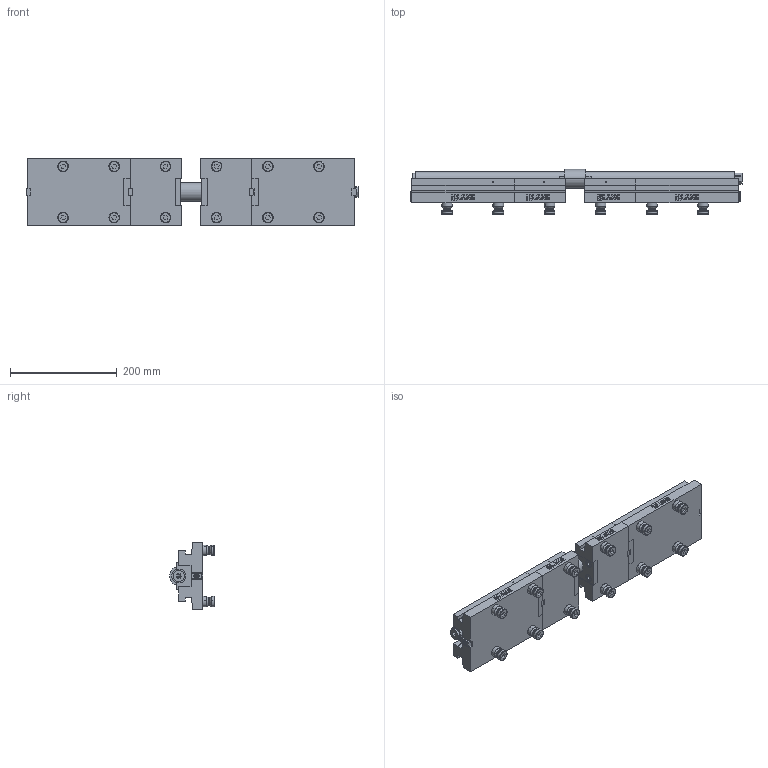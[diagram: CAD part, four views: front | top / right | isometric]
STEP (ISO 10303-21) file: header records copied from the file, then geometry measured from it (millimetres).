
FILE_DESCRIPTION (( 'STEP AP214' ), '1' );
FILE_NAME ('81600.STEP', '2020-10-28T07:13:14', ( '' ), ( '' ), 'SwSTEP 2.0', 'SolidWorks 2019', '' );
FILE_SCHEMA (( 'AUTOMOTIVE_DESIGN' ));
Length unit declared in the file: millimetre
Products named in the file (1): 81600
Bounding box: 622.5 x 84.5 x 125 mm (x, y, z)
Volume: 2589226.4 mm3; surface area: 400121.3 mm2
Topology: 39 solids, 39 shells, 1937 faces, 4819 edges, 3092 vertices
Faces by surface type: plane 1230, cylinder 255, cone 168, bspline 160, torus 112, sphere 12
Entity records: 80060 total; most frequent: CARTESIAN_POINT 12689, ORIENTED_EDGE 9566, DIRECTION 8955, EDGE_CURVE 4783, VECTOR 3535, LINE 3535, VERTEX_POINT 3092, AXIS2_PLACEMENT_3D 2710
